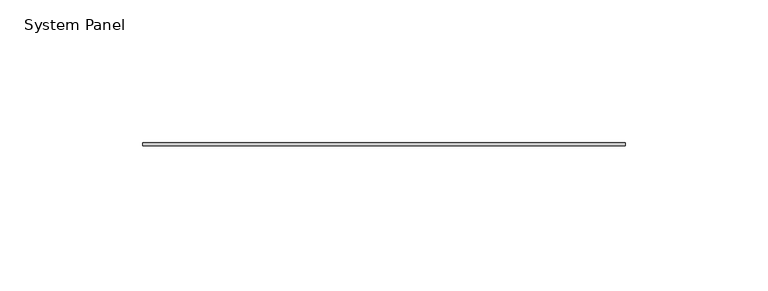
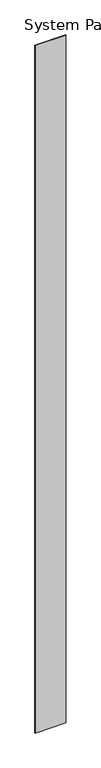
"""IFC4 building model written with IfcOpenShell, lengths in millimetres: plate geometry, System Panel : Stratco_Hiland_Tray."""

from ifc_helpers import new_model, si_unit, origin, origin_with_axes, place, context, project, spatial, polyline, outline, extrude, source, transform, mapped, element, save


def system_panel_8aefe1c9(model_context):
    return source(origin(), model_context, "Body", "SweptSolid", [
        extrude(outline(polyline([(84.3699777, 2.5), (-84.3699777, 2.5), (-84.3699777, 3.5), (84.3699777, 3.5), (84.3699777, 2.5)])), origin_with_axes(), (0.0, 0.0, 1.0), 4000.0),
    ])


if __name__ == "__main__":
    model = new_model("IFC4")
    model_context = context("Model", 3, world=origin())
    ifc_project = project(units=[si_unit("LENGTHUNIT", "METRE", prefix="MILLI")], contexts=[model_context])
    site = spatial("IfcSite", under=ifc_project)
    building = spatial("IfcBuilding", under=site)
    placement = place(None, origin())
    system_panel_shape = system_panel_8aefe1c9(model_context)
    element("IfcPlate", 1, ObjectType="System Panel : Stratco_Hiland_Tray", at=placement, inside=building, context=model_context, shape_type="MappedRepresentation", body=[
        mapped(system_panel_shape, transform((0.0, 0.0, 0.0), x_axis=(1.0, 0.0, 0.0), y_axis=(0.0, 1.0, 0.0), z_axis=(0.0, 0.0, 1.0))),
    ])
    save(model, "model.ifc")
